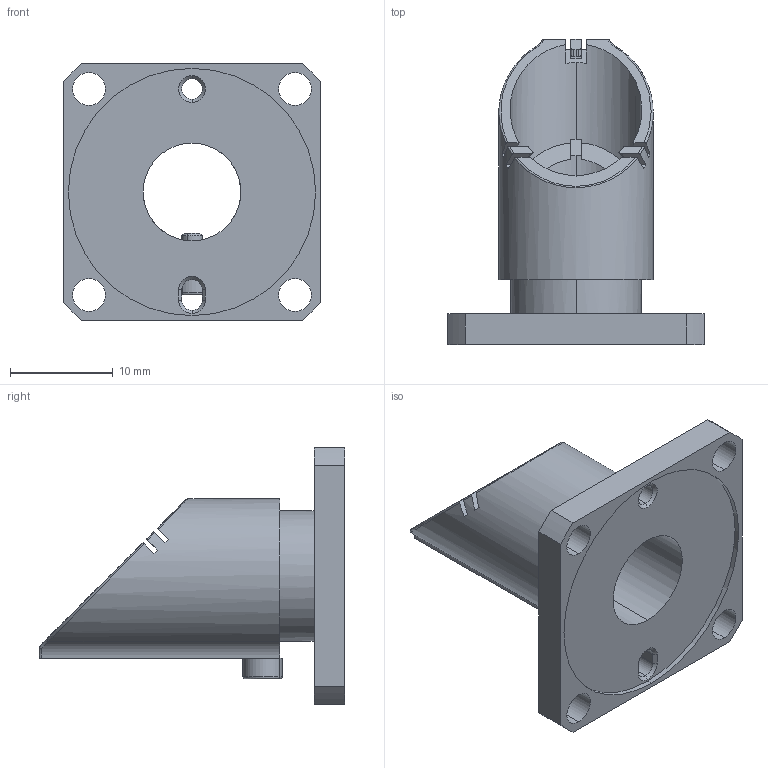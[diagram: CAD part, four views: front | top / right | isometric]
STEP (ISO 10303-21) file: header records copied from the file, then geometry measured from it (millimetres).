
FILE_DESCRIPTION (( 'STEP AP203' ), '1' );
FILE_NAME ('002-01-00.STEP', '2021-09-08T08:14:13', ( '' ), ( '' ), 'SwSTEP 2.0', 'SolidWorks 2020', '' );
FILE_SCHEMA (( 'CONFIG_CONTROL_DESIGN' ));
Length unit declared in the file: millimetre
Products named in the file (4): 002-01-00; 002-01-01; 002-01-02; socket head cap screw_din_DIN 912 M2 x 4 --- 4N
Assembly tree (3 placements, depth 2):
  002-01-00
    002-01-01
    002-01-02
    socket head cap screw_din_DIN 912 M2 x 4 --- 4N
Bounding box: 24.9 x 29.7 x 24.9 mm (x, y, z)
Volume: 2791.8 mm3; surface area: 4042.5 mm2
Topology: 3 solids, 3 shells, 328 faces, 895 edges, 586 vertices
Faces by surface type: plane 191, bspline 76, cylinder 46, cone 9, torus 6
Entity records: 13848 total; most frequent: CARTESIAN_POINT 5856, ORIENTED_EDGE 1786, DIRECTION 1252, EDGE_CURVE 893, VERTEX_POINT 586, LINE 552, VECTOR 552, EDGE_LOOP 361
